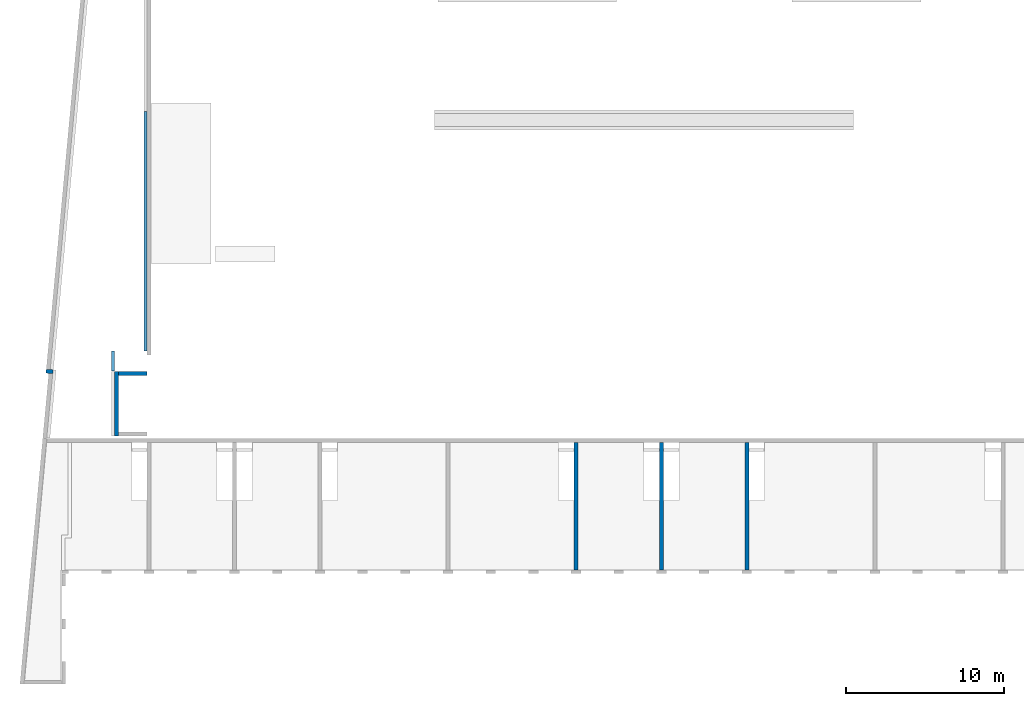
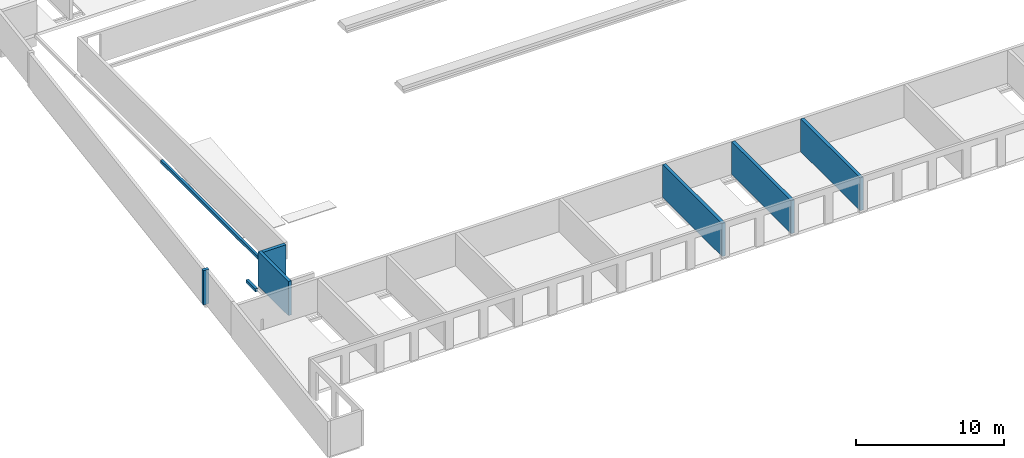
# One storey, part 8 of 18: 8 walls.
"""IFC2X3 building model written with IfcOpenShell, lengths in millimetres."""

from ifc_helpers import new_model, entity, si_unit, converted_unit, derived_unit, direction, frame, frame_2d, origin, place, context, subcontext, project, spatial, polyline, rectangle, outline, extrude, material, layer, layer_set, layer_usage, type_object, element, save


model = new_model("IFC2X3")

# Units and contexts
model_context = context("Model", 3, precision=0.01, world=origin(), true_north=direction((6.12303176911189e-17, 1.0)))
body_context = subcontext(model_context, "Body", "Model", "MODEL_VIEW")
ifc_project = project(units=[si_unit("LENGTHUNIT", "METRE", prefix="MILLI"), si_unit("AREAUNIT", "SQUARE_METRE"), si_unit("VOLUMEUNIT", "CUBIC_METRE"), converted_unit("PLANEANGLEUNIT", "DEGREE", entity("IfcRatioMeasure", 0.0174532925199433), si_unit("PLANEANGLEUNIT", "RADIAN"), dimensions=[0, 0, 0, 0, 0, 0, 0]), si_unit("MASSUNIT", "GRAM", prefix="KILO"), derived_unit("MASSDENSITYUNIT", [(si_unit("MASSUNIT", "GRAM", prefix="KILO"), 1), (si_unit("LENGTHUNIT", "METRE"), -3)]), si_unit("TIMEUNIT", "SECOND"), si_unit("FREQUENCYUNIT", "HERTZ"), si_unit("THERMODYNAMICTEMPERATUREUNIT", "DEGREE_CELSIUS"), derived_unit("THERMALTRANSMITTANCEUNIT", [(si_unit("MASSUNIT", "GRAM", prefix="KILO"), 1), (si_unit("THERMODYNAMICTEMPERATUREUNIT", "KELVIN"), -1), (si_unit("TIMEUNIT", "SECOND"), -3)]), derived_unit("VOLUMETRICFLOWRATEUNIT", [(si_unit("LENGTHUNIT", "METRE"), 3), (si_unit("TIMEUNIT", "SECOND"), -1)]), si_unit("ELECTRICCURRENTUNIT", "AMPERE"), si_unit("ELECTRICVOLTAGEUNIT", "VOLT"), si_unit("POWERUNIT", "WATT"), si_unit("FORCEUNIT", "NEWTON", prefix="KILO"), si_unit("ILLUMINANCEUNIT", "LUX"), si_unit("LUMINOUSFLUXUNIT", "LUMEN"), si_unit("LUMINOUSINTENSITYUNIT", "CANDELA"), derived_unit("USERDEFINED", [(si_unit("MASSUNIT", "GRAM", prefix="KILO"), -1), (si_unit("LENGTHUNIT", "METRE"), -2), (si_unit("TIMEUNIT", "SECOND"), 3), (si_unit("LUMINOUSFLUXUNIT", "LUMEN"), 1)]), derived_unit("LINEARVELOCITYUNIT", [(si_unit("LENGTHUNIT", "METRE"), 1), (si_unit("TIMEUNIT", "SECOND"), -1)]), si_unit("PRESSUREUNIT", "PASCAL"), derived_unit("USERDEFINED", [(si_unit("LENGTHUNIT", "METRE"), -2), (si_unit("MASSUNIT", "GRAM", prefix="KILO"), 1), (si_unit("TIMEUNIT", "SECOND"), -2)])], contexts=[model_context])

# Site, building, storey
site_placement = place(None, origin())
site = spatial("IfcSite", under=ifc_project, at=site_placement, Name="Default", CompositionType="ELEMENT")
building_placement = place(site_placement, origin())
building = spatial("IfcBuilding", under=site, at=building_placement, Name="niet gebruiken", CompositionType="ELEMENT")
storey_placement = place(building_placement, frame((0.0, 0.0, 3690.0)))
storey = spatial("IfcBuildingStorey", under=building, at=storey_placement, Name="01 eerste verdieping", CompositionType="ELEMENT", Elevation=3690.00000000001)

# Walls
ifc_material_1 = material(Name="NLRS_f2_beton ihwg")
ifc_layer_1 = layer(ifc_material_1, 250.0)
ifc_layer_set_1 = layer_set([ifc_layer_1], Name="Basic Wall:NLRS_22.21_WA_beton ihwg d=250_gen")
ifc_layer_usage_1 = layer_usage(ifc_layer_set_1, "AXIS2", "NEGATIVE", 125.0)
wall_type_1 = type_object("IfcWallType", Name="Basic Wall:NLRS_22.21_WA_beton ihwg d=250_gen", PredefinedType="STANDARD", material=ifc_layer_set_1)
wall_1_placement = place(storey_placement, frame((35100.0, 8496.0, -90.0), z_axis=(0.0, 0.0, 1.0), x_axis=(0.0, -1.0, 0.0)))
element("IfcWallStandardCase", 1, at=wall_1_placement, inside=storey, type_object=wall_type_1, material=ifc_layer_usage_1, Name="Basic Wall:NLRS_22.21_WA_beton ihwg d=250_gen", ObjectType="Basic Wall:NLRS_22.21_WA_beton ihwg d=250_gen", context=body_context, shape_type="SweptSolid", body=[
    extrude(rectangle(XDim=8075.99999999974, YDim=250.000000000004, at=frame_2d((4037.99999999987, 0.0), x_axis=(-1.0, 0.0))), origin(), (0.0, 0.0, 1.0), 2720.00000000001),
])
ifc_layer_usage_2 = layer_usage(ifc_layer_set_1, "AXIS2", "NEGATIVE", 125.0)
wall_2_placement = place(storey_placement, frame((40500.0, 8496.0, -90.0), z_axis=(0.0, 0.0, 1.0), x_axis=(0.0, -1.0, 0.0)))
element("IfcWallStandardCase", 2, at=wall_2_placement, inside=storey, type_object=wall_type_1, material=ifc_layer_usage_2, Name="Basic Wall:NLRS_22.21_WA_beton ihwg d=250_gen", ObjectType="Basic Wall:NLRS_22.21_WA_beton ihwg d=250_gen", context=body_context, shape_type="SweptSolid", body=[
    extrude(rectangle(XDim=8075.99999999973, YDim=249.999999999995, at=frame_2d((4037.99999999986, 0.0), x_axis=(-1.0, 0.0))), origin(), (0.0, 0.0, 1.0), 2720.00000000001),
])
ifc_layer_usage_3 = layer_usage(ifc_layer_set_1, "AXIS2", "NEGATIVE", 125.0)
wall_3_placement = place(storey_placement, frame((45900.0, 8496.0, -90.0), z_axis=(0.0, 0.0, 1.0), x_axis=(0.0, -1.0, 0.0)))
element("IfcWallStandardCase", 3, at=wall_3_placement, inside=storey, type_object=wall_type_1, material=ifc_layer_usage_3, Name="Basic Wall:NLRS_22.21_WA_beton ihwg d=250_gen", ObjectType="Basic Wall:NLRS_22.21_WA_beton ihwg d=250_gen", context=body_context, shape_type="SweptSolid", body=[
    extrude(rectangle(XDim=8075.99999999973, YDim=249.999999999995, at=frame_2d((4037.99999999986, 0.0), x_axis=(-1.0, 0.0))), origin(), (0.0, 0.0, 1.0), 2720.00000000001),
])
ifc_material_2 = material(Name="NLRS_f2_beton prefab")
ifc_layer_2 = layer(ifc_material_2, 250.0)
ifc_layer_set_2 = layer_set([ifc_layer_2], Name="Basic Wall:NLRS_21.21_WA_beton prefab d=250_gen")
ifc_layer_usage_4 = layer_usage(ifc_layer_set_2, "AXIS2", "NEGATIVE", 125.0)
wall_type_2 = type_object("IfcWallType", Name="Basic Wall:NLRS_21.21_WA_beton prefab d=250_gen", PredefinedType="STANDARD", material=ifc_layer_set_2)
wall_4_placement = place(storey_placement, frame((6175.0, 12861.0, 50.0)))
element("IfcWallStandardCase", 4, at=wall_4_placement, inside=storey, type_object=wall_type_2, material=ifc_layer_usage_4, Name="Basic Wall:NLRS_21.21_WA_beton prefab d=250_gen", ObjectType="Basic Wall:NLRS_21.21_WA_beton prefab d=250_gen", context=body_context, shape_type="SweptSolid", body=[
    extrude(rectangle(XDim=1800.0, YDim=249.999999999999, at=frame_2d((900.0, 0.0), x_axis=(-1.0, 0.0))), origin(), (0.0, 0.0, 1.0), 2829.99999999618),
])
ifc_layer_usage_5 = layer_usage(ifc_layer_set_2, "AXIS2", "NEGATIVE", 125.0)
wall_5_placement = place(storey_placement, frame((6050.0, 8886.0, 50.0), z_axis=(0.0, 0.0, 1.0), x_axis=(0.0, 1.0, 0.0)))
element("IfcWallStandardCase", 5, at=wall_5_placement, inside=storey, type_object=wall_type_2, material=ifc_layer_usage_5, Name="Basic Wall:NLRS_21.21_WA_beton prefab d=250_gen", ObjectType="Basic Wall:NLRS_21.21_WA_beton prefab d=250_gen", context=body_context, shape_type="SweptSolid", body=[
    extrude(rectangle(XDim=4100.0, YDim=249.999999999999, at=frame_2d((2050.0, 0.0), x_axis=(-1.0, 0.0))), origin(), (0.0, 0.0, 1.0), 2830.00000000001),
])
ifc_layer_usage_6 = layer_usage(ifc_layer_set_2, "AXIS2", "NEGATIVE", 125.0)
wall_6_placement = place(storey_placement, frame((1588.22425282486, 12997.0801873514, 50.0), z_axis=(0.0, 0.0, 1.0), x_axis=(0.995731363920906, -0.0922987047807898, 0.0)))
element("IfcWallStandardCase", 6, at=wall_6_placement, inside=storey, type_object=wall_type_2, material=ifc_layer_usage_6, Name="Basic Wall:NLRS_21.21_WA_beton prefab d=250_gen", ObjectType="Basic Wall:NLRS_21.21_WA_beton prefab d=250_gen", context=body_context, shape_type="SweptSolid", body=[
    extrude(rectangle(XDim=430.000000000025, YDim=250.000000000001, at=frame_2d((215.000000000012, -2.27373675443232e-13), x_axis=(-1.0, 0.0))), origin(), (0.0, 0.0, 1.0), 2829.99999999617),
])
wall_type_3 = type_object("IfcWallType", Name="NLRS_21.21_SF_WPB_oplegnok prefabbeton_gen:200x250", PredefinedType="NOTDEFINED", material=ifc_material_2)
wall_7_placement = place(storey_placement, frame((5725.0, 13006.0, -410.0), z_axis=(0.0, 0.0, 1.0), x_axis=(0.0, 1.0, 0.0)))
element("IfcWall", 7, at=wall_7_placement, inside=storey, type_object=wall_type_3, material=ifc_material_2, Name="NLRS_21.21_SF_WPB_oplegnok prefabbeton_gen:200x250", ObjectType="NLRS_21.21_SF_WPB_oplegnok prefabbeton_gen:200x250", context=body_context, shape_type="SweptSolid", body=[
    extrude(rectangle(XDim=1260.00000000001, YDim=200.0, at=frame_2d((0.0, -5.40012479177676e-13), x_axis=(1.0, 0.0))), frame((630.0, -100.0, 0.0), z_axis=(0.0, 0.0, 1.0), x_axis=(-1.0, 0.0, 0.0)), (0.0, 0.0, 1.0), 250.000000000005),
])
wall_8_placement = place(storey_placement, frame((7775.0, 14263.0, -410.0), z_axis=(0.0, 0.0, 1.0), x_axis=(0.0, 1.0, 0.0)))
element("IfcWall", 8, at=wall_8_placement, inside=storey, type_object=wall_type_3, material=ifc_material_2, Name="NLRS_21.21_SF_WPB_oplegnok prefabbeton_gen:200x250", ObjectType="NLRS_21.21_SF_WPB_oplegnok prefabbeton_gen:200x250", context=body_context, shape_type="SweptSolid", body=[
    extrude(outline(polyline([(-10094.3333333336, -126.666666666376), (5045.66666666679, -126.666666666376), (5045.66666666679, 53.3333333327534), (5048.66666666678, 53.3333333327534), (5048.66666666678, 73.3333333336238), (-10094.3333333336, 73.3333333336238), (-10094.3333333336, -126.666666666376)])), frame((5048.66666666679, -126.6666666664, 0.0), z_axis=(0.0, 0.0, 1.0), x_axis=(-1.0, 0.0, 0.0)), (0.0, 0.0, 1.0), 250.000000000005),
])

save(model, "model.ifc")
